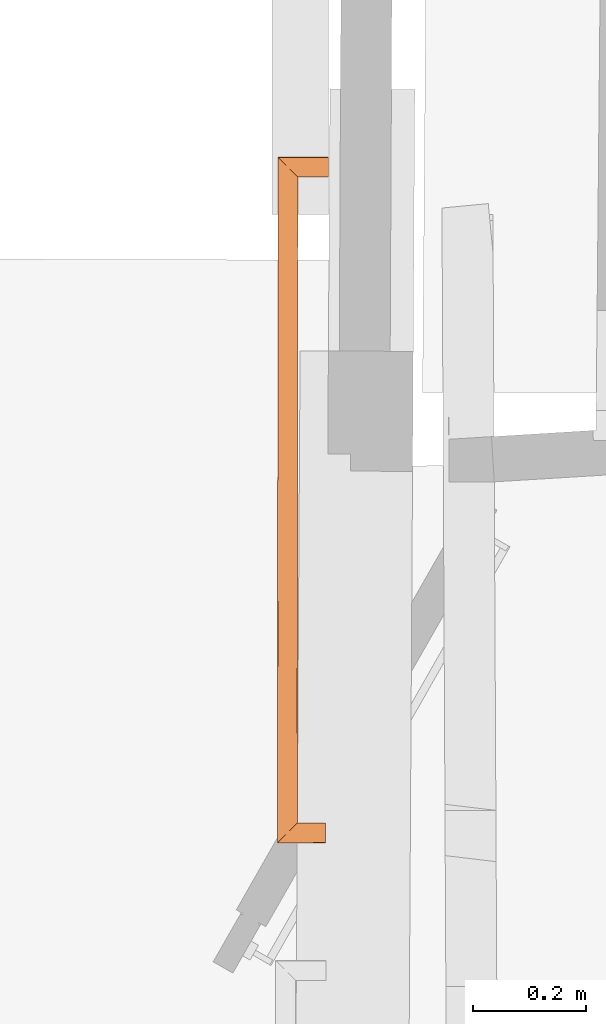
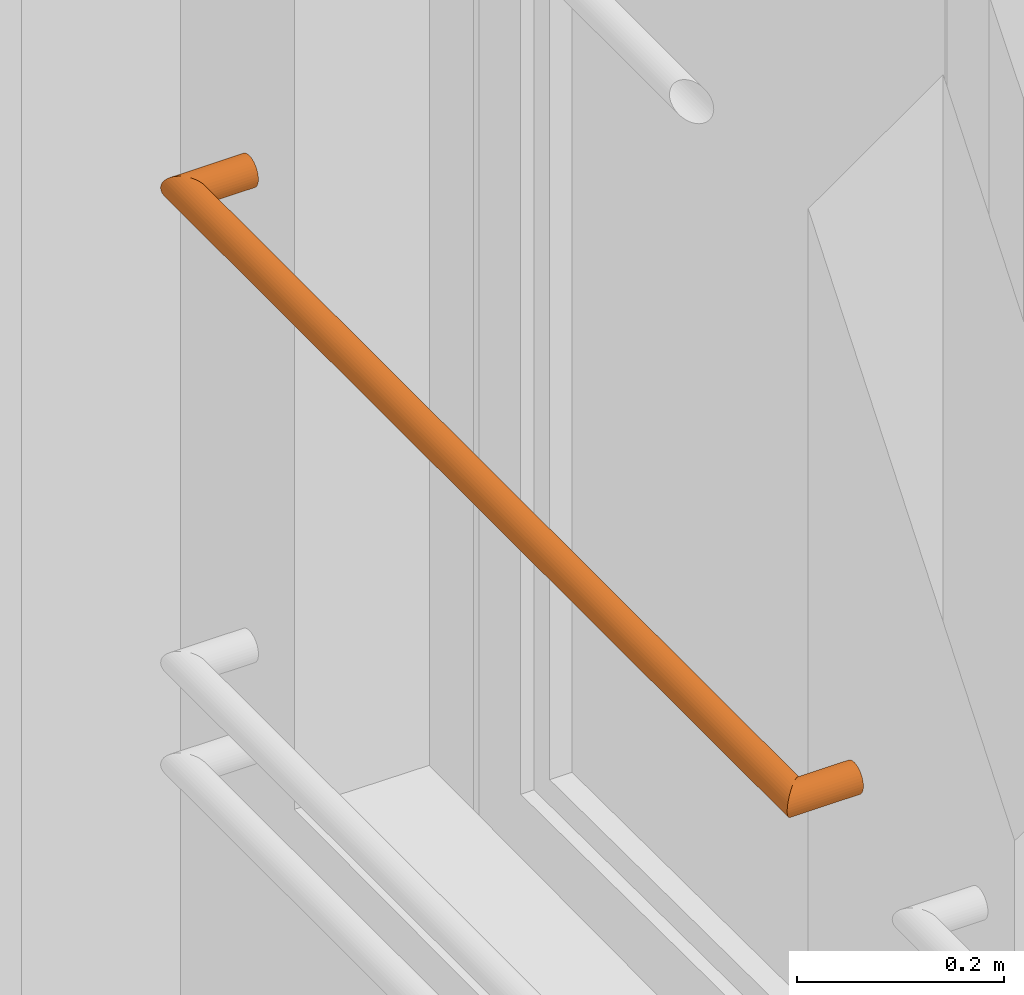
# One storey, part 90 of 97: 1 proxy.
"""IFC2X3 building model written with IfcOpenShell, lengths in centimetres."""

from ifc_helpers import new_model, entity, si_unit, converted_unit, direction, origin, origin_with_axes, place, context, subcontext, project, spatial, faceted_brep, material, type_object, element, save


model = new_model("IFC2X3")

# Units and contexts
model_context = context("Model", 3, precision=0.0001, world=origin(), true_north=direction((0.225632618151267, 0.974212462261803, 0.0)))
body_context = subcontext(model_context, "Body", "Model", "MODEL_VIEW")
ifc_project = project(units=[si_unit("LENGTHUNIT", "METRE", prefix="CENTI"), si_unit("AREAUNIT", "SQUARE_METRE", prefix="CENTI"), si_unit("VOLUMEUNIT", "CUBIC_METRE", prefix="CENTI"), converted_unit("PLANEANGLEUNIT", "DEGREE", entity("IfcRatioMeasure", 0.0174532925), si_unit("PLANEANGLEUNIT", "RADIAN"), dimensions=[0, 0, 0, 0, 0, 0, 0])], contexts=[model_context])

# Site, building, storey
site_placement = place(None, origin_with_axes())
site = spatial("IfcSite", under=ifc_project, at=site_placement, Name="Default Site", CompositionType="ELEMENT")
building_placement = place(site_placement, origin_with_axes())
building = spatial("IfcBuilding", under=site, at=building_placement, Name="Default Building", CompositionType="ELEMENT")
storey_placement = place(building_placement, origin_with_axes())
storey = spatial("IfcBuildingStorey", under=building, at=storey_placement, Name="Rez-de-chaussée", CompositionType="ELEMENT", Elevation=0.0)

# Proxy
ifc_material = material(Name="Aluminium mat")
building_element_proxy_type = type_object("IfcBuildingElementProxyType", Name="Profil [C] Ø35mm", PredefinedType="NOTDEFINED", material=ifc_material)
proxy_placement = place(storey_placement, origin_with_axes())
element("IfcBuildingElementProxy", 1, at=proxy_placement, inside=storey, type_object=building_element_proxy_type, material=ifc_material, Name="Extrusion (solide) 1702445", context=body_context, shape_type="Brep", body=[
    faceted_brep([(-1369.52066421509, -54.8992037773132, 368.00000667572), (-1369.49405670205, -54.8726384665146, 367.696118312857), (-1361.02056503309, -54.8794807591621, 367.696118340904), (-1361.02056503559, -54.9060675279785, 368.000006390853), (-1369.49405670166, -54.8726379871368, 367.696118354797), (-1369.414997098, -54.7937477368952, 367.40145777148), (-1361.02046966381, -54.8005261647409, 367.401457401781), (-1361.02056503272, -54.8794802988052, 367.696118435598), (-1369.41499710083, -54.7937512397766, 367.401456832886), (-1369.28596497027, -54.6649451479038, 367.125007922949), (-1361.02037430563, -54.671618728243, 367.125006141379), (-1361.02046966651, -54.8005295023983, 367.40145626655), (-1369.28596496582, -54.6649396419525, 367.125010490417), (-1369.11087035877, -54.4901100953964, 366.875126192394), (-1361.02027892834, -54.4966430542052, 366.875125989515), (-1361.02037430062, -54.6716125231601, 367.125008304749), (-1369.11087036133, -54.4901132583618, 366.875123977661), (-1368.89505386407, -54.274589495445, 366.659426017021), (-1361.02008819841, -54.2809459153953, 366.659423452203), (-1361.02027893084, -54.496646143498, 366.875123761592), (-1368.89505386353, -54.2745888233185, 366.659426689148), (-1368.64490508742, -54.0249073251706, 366.484456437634), (-1361.01989745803, -54.0310644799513, 366.48445644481), (-1361.02008819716, -54.2809443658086, 366.659424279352), (-1368.64490509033, -54.0249109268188, 366.484451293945), (-1368.36824417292, -53.7486694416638, 366.355533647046), (-1361.01961136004, -53.7546055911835, 366.355534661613), (-1361.01989746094, -54.0310680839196, 366.484451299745), (-1368.36824417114, -53.7486672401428, 366.355538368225), (-1368.07336807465, -53.4542587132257, 366.276588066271), (-1361.01942062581, -53.4599567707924, 366.276588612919), (-1361.0196113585, -53.7546036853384, 366.355539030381), (-1368.07336807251, -53.4542560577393, 366.276597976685), (-1367.76924133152, -53.1506162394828, 366.25001145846), (-1361.01913452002, -53.1560641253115, 366.250011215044), (-1361.01942062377, -53.4599542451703, 366.276598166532), (-1367.76924133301, -53.1506180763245, 366.249990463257), (-1367.46511459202, -52.846978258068, 366.276576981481), (-1361.01894378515, -52.8521817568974, 366.276577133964), (-1361.0191345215, -53.1560659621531, 366.249990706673), (-1367.46511459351, -52.8469800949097, 366.276597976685), (-1367.17023849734, -52.5525660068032, 366.355549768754), (-1361.01865768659, -52.5575367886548, 366.355548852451), (-1361.01894378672, -52.8521836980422, 366.276598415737), (-1367.17023849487, -52.5525629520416, 366.355538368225), (-1366.8935775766, -52.2763263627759, 366.484453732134), (-1361.01846695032, -52.281070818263, 366.484453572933), (-1361.0186576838, -52.5575333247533, 366.355536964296), (-1366.89357757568, -52.2763252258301, 366.484451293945), (-1366.64342879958, -52.0266437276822, 366.65942154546), (-1361.0182762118, -52.0311857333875, 366.659421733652), (-1361.01846694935, -52.2810696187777, 366.484451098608), (-1366.64342880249, -52.0266473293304, 366.659426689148), (-1366.42761230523, -51.8111235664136, 366.875124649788), (-1361.01808547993, -51.8154921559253, 366.875124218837), (-1361.01827621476, -52.0311894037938, 366.659426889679), (-1366.42761230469, -51.8111228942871, 366.875123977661), (-1366.25251769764, -51.636293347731, 367.125008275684), (-1361.01799011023, -51.6405199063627, 367.125008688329), (-1361.01808547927, -51.8154913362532, 366.875123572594), (-1366.2525177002, -51.6362965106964, 367.125010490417), (-1366.12348556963, -51.5074904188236, 367.401459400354), (-1361.01779938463, -51.5116124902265, 367.401460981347), (-1361.01799011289, -51.6405232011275, 367.12501082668), (-1366.12348556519, -51.5074849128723, 367.401456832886), (-1366.04442596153, -51.4285946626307, 367.696117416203), (-1361.01779937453, -51.4326536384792, 367.696117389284), (-1361.01779938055, -51.5116074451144, 367.401457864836), (-1366.04442596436, -51.4285981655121, 367.696118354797), (-1366.01781845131, -51.4020328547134, 368.00000671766), (-1361.01779937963, -51.4060703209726, 368.000006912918), (-1361.01779937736, -51.4326571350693, 367.696118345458), (-1366.01781845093, -51.4020323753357, 368.00000667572), (-1366.04442596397, -51.4285976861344, 368.303895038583), (-1361.01779937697, -51.4326566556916, 368.303895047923), (-1361.01779937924, -51.4060698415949, 368.000006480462), (-1366.04442596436, -51.4285981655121, 368.303894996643), (-1366.1234855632, -51.5074824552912, 368.598533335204), (-1361.01779937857, -51.5116049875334, 368.598532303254), (-1361.01779937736, -51.4326571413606, 368.303895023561), (-1366.12348556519, -51.5074849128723, 368.598532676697), (-1366.25251770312, -51.6363001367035, 368.875001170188), (-1361.01799011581, -51.6405268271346, 368.875000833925), (-1361.01779938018, -51.5116069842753, 368.598531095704), (-1366.2525177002, -51.6362965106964, 368.875002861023), (-1366.42761230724, -51.8111260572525, 369.124887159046), (-1361.01808548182, -51.8154944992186, 369.124887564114), (-1361.01799011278, -51.6405230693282, 368.875002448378), (-1366.42761230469, -51.8111228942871, 369.124889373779), (-1366.64342880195, -52.0266466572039, 369.340587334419), (-1361.01827621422, -52.0311887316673, 369.340587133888), (-1361.01808547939, -51.8154914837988, 369.12488980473), (-1366.64342880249, -52.0266473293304, 369.340586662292), (-1366.89357756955, -52.2763176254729, 369.515549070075), (-1361.01846694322, -52.2810620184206, 369.515549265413), (-1361.01827621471, -52.0311893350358, 369.3405864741), (-1366.89357757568, -52.2763252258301, 369.515538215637), (-1367.17023849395, -52.5525618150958, 369.644453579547), (-1361.01865768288, -52.5575321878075, 369.644454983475), (-1361.0184669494, -52.2810696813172, 369.515538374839), (-1367.17023849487, -52.5525629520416, 369.644451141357), (-1367.46511459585, -52.8469830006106, 369.723404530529), (-1361.01894378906, -52.8521866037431, 369.723404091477), (-1361.01865768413, -52.5575337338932, 369.644452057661), (-1367.46511459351, -52.8469800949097, 369.723415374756), (-1367.76924133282, -53.1506178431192, 369.750001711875), (-1361.01913452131, -53.1560657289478, 369.750001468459), (-1361.01894378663, -52.852183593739, 369.723415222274), (-1367.76924133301, -53.1506180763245, 369.749999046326), (-1368.07336807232, -53.454255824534, 369.723412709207), (-1361.01942062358, -53.459954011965, 369.723412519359), (-1361.0191345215, -53.1560659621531, 369.749999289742), (-1368.07336807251, -53.4542560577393, 369.723415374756), (-1368.36824417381, -53.7486705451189, 369.6444634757), (-1361.01961136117, -53.7546069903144, 369.644462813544), (-1361.01942062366, -53.459954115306, 369.723414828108), (-1368.36824417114, -53.7486672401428, 369.644451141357), (-1368.64490508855, -54.0249087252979, 369.515533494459), (-1361.01989745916, -54.0310658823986, 369.515533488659), (-1361.01961135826, -53.7546033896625, 369.644450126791), (-1368.64490509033, -54.0249109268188, 369.515538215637), (-1368.89505385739, -54.2745812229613, 369.340575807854), (-1361.02008819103, -54.2809367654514, 369.340578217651), (-1361.01989746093, -54.0310680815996, 369.515538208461), (-1368.89505386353, -54.2745888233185, 369.340586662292), (-1369.11087036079, -54.4901125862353, 369.124888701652), (-1361.0202789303, -54.4966454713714, 369.124888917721), (-1361.02008819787, -54.2809452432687, 369.340589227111), (-1369.11087036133, -54.4901132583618, 369.124889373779), (-1369.28596496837, -54.664942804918, 368.875005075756), (-1361.02037430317, -54.6716156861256, 368.875007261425), (-1361.0202789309, -54.4966462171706, 369.124889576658), (-1369.28596496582, -54.6649396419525, 368.875002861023), (-1369.41499710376, -54.7937548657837, 368.598534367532), (-1361.02046966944, -54.8005331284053, 368.598534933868), (-1361.02037430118, -54.6716132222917, 368.875004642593), (-1369.41499710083, -54.7937512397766, 368.598532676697), (-1369.49405669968, -54.8726355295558, 368.303894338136), (-1361.02056503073, -54.8794778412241, 368.303894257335), (-1361.02046966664, -54.8005296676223, 368.598533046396), (-1369.49405670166, -54.8726379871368, 368.303894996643), (-1369.5206642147, -54.8992032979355, 368.00000663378), (-1361.0205650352, -54.9060670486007, 368.000006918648), (-1361.0205650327, -54.8794802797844, 368.303894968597), (-1369.42281723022, 66.2952899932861, 368.00000667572), (-1369.39625158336, 66.2687063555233, 367.696114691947), (-1369.49407264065, -54.8726379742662, 367.696116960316), (-1369.52068087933, -54.899203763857, 368.000005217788), (-1369.3962097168, 66.2687063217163, 367.696118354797), (-1369.31732058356, 66.1897539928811, 367.401462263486), (-1369.41501149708, -54.7937512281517, 367.40145297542), (-1369.4940323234, -54.8726380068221, 367.696124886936), (-1369.31734085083, 66.1897540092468, 367.401456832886), (-1369.18852936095, 66.0608351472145, 367.124996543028), (-1369.28601111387, -54.6649396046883, 367.124988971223), (-1369.41502761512, -54.7937512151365, 367.401442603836), (-1369.18849945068, 66.0608351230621, 367.125010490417), (-1369.01367571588, 65.8858716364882, 366.875134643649), (-1369.11087084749, -54.4901132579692, 366.875123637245), (-1369.28597823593, -54.664939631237, 367.125001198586), (-1369.01369094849, 65.8858716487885, 366.875123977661), (-1368.79816415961, 65.6701684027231, 366.659423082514), (-1368.8950381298, -54.2745888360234, 366.659442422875), (-1369.11088207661, -54.4901132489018, 366.875112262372), (-1368.79816055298, 65.6701683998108, 366.659426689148), (-1368.54848298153, 65.4202938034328, 366.484459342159), (-1368.64491089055, -54.0249109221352, 366.484443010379), (-1368.89504113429, -54.2745888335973, 366.659444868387), (-1368.54848861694, 65.4202938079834, 366.484451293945), (-1368.27221772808, 65.1438295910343, 366.355520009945), (-1368.36824735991, -53.7486672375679, 366.355531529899), (-1368.64491129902, -54.0249109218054, 366.484437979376), (-1368.27220916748, 65.1438295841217, 366.355538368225), (-1367.97781175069, 64.8491799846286, 366.276591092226), (-1368.07336798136, -53.4542560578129, 366.276598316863), (-1368.36824215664, -53.7486672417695, 366.355545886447), (-1367.97780990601, 64.849179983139, 366.276597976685), (-1367.67415825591, 64.5452916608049, 366.250010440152), (-1367.7692392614, -53.1506180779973, 366.250014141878), (-1368.07336785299, -53.4542560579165, 366.276600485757), (-1367.67416000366, 64.5452916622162, 366.249990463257), (-1367.37060299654, 64.2414092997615, 366.276569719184), (-1367.46511241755, -52.8469800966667, 366.276573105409), (-1367.76924100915, -53.150618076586, 366.249986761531), (-1367.37060546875, 64.2414093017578, 366.276597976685), (-1367.07611907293, 63.9467597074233, 366.355569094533), (-1367.17024303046, -52.5525629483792, 366.355555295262), (-1367.46511720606, -52.8469800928, 366.276607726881), (-1367.07611083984, 63.9467597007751, 366.355538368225), (-1366.79991828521, 63.6702954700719, 366.484433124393), (-1366.89356469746, -52.2763252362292, 366.484423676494), (-1367.17022863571, -52.5525629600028, 366.355517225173), (-1366.79992675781, 63.6702954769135, 366.484451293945), (-1366.55024918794, 63.4204149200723, 366.659418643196), (-1366.64343921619, -52.0266473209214, 366.659441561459), (-1366.89356945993, -52.2763252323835, 366.484439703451), (-1366.55025482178, 63.4204149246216, 366.659426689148), (-1366.3347280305, 63.2047176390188, 366.875127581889), (-1366.42760925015, -51.8111228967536, 366.875120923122), (-1366.64345319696, -52.0266473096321, 366.659451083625), (-1366.33472442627, 63.2047176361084, 366.875123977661), (-1366.1599006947, 63.0297481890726, 367.124999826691), (-1366.25249597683, -51.6362965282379, 367.124995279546), (-1366.42760336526, -51.8111229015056, 366.875117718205), (-1366.15991592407, 63.0297482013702, 367.125010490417), (-1366.03110443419, 62.9008293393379, 367.401470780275), (-1366.12349324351, -51.5074849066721, 367.401460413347), (-1366.25250974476, -51.6362965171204, 367.125006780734), (-1366.03107452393, 62.9008293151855, 367.401456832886), (-1365.95218539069, 62.8218769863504, 367.696112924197), (-1366.04443948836, -51.4285981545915, 367.696121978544), (-1366.12346031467, -51.5074849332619, 367.401450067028), (-1365.95220565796, 62.8218770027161, 367.696118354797), (-1365.92564001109, 62.7952933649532, 368.000010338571), (-1366.01785367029, -51.4020323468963, 368.000009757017), (-1366.04446190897, -51.428598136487, 367.696121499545), (-1365.92559814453, 62.7952933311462, 368.00000667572), (-1365.9521637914, 62.8218769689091, 368.303898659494), (-1366.04442004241, -51.428598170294, 368.303895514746), (-1366.01781180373, -51.4020323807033, 368.000007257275), (-1365.95220565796, 62.8218770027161, 368.303894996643), (-1366.03108883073, 62.9008293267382, 368.598528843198), (-1366.12347462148, -51.5074849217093, 368.598535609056), (-1366.04445975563, -51.4285981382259, 368.303885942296), (-1366.03107452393, 62.9008293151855, 368.598532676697), (-1366.15989514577, 63.0297481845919, 368.875012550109), (-1366.25248896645, -51.6362965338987, 368.875016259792), (-1366.12346333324, -51.5074849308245, 368.598543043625), (-1366.15991592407, 63.0297482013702, 368.875002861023), (-1366.33473965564, 63.204717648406, 369.124878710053), (-1366.42761859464, -51.811122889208, 369.124884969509), (-1366.2525112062, -51.6362965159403, 368.875007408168), (-1366.33472442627, 63.2047176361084, 369.124889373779), (-1366.55025121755, 63.4204149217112, 369.34059026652), (-1366.64344959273, -52.0266473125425, 369.340565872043), (-1366.42760564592, -51.811122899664, 369.124896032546), (-1366.55025482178, 63.4204149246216, 369.340586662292), (-1366.79992118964, 63.6702954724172, 369.515546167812), (-1366.89356389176, -52.2763252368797, 369.515557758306), (-1366.64344485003, -52.0266473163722, 369.34056374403), (-1366.79992675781, 63.6702954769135, 369.515538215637), (-1367.07611931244, 63.9467597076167, 369.644432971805), (-1367.17023710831, -52.5525629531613, 369.644454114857), (-1366.89357317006, -52.2763252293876, 369.515547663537), (-1367.07611083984, 63.9467597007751, 369.644451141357), (-1367.37060319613, 64.2414092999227, 369.723423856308), (-1367.46511493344, -52.8469800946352, 369.723414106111), (-1367.17023479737, -52.5525629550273, 369.644464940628), (-1367.37060546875, 64.2414093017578, 369.723415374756), (-1367.67416040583, 64.5452916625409, 369.749994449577), (-1367.76924141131, -53.1506180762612, 369.749998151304), (-1367.46511488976, -52.8469800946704, 369.723411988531), (-1367.67416000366, 64.5452916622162, 369.749999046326), (-1367.97780958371, 64.8491799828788, 369.723411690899), (-1368.0733675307, -53.4542560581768, 369.723409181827), (-1367.76924100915, -53.150618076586, 369.749995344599), (-1367.97780990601, 64.849179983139, 369.723415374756), (-1368.27221328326, 65.1438295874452, 369.644466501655), (-1368.36824627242, -53.7486672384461, 369.644458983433), (-1368.07336613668, -53.4542560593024, 369.723408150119), (-1368.27220916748, 65.1438295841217, 369.644451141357), (-1368.54848005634, 65.4202938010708, 369.515519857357), (-1368.64490273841, -54.024910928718, 369.515533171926), (-1368.3682387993, -53.7486672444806, 369.644439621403), (-1368.54848861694, 65.4202938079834, 369.515538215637), (-1368.79815498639, 65.6701683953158, 369.340578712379), (-1368.8950355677, -54.2745888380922, 369.34056053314), (-1368.64491652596, -54.0249109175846, 369.515554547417), (-1368.79816055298, 65.6701683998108, 369.340586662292), (-1369.01368734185, 65.8858716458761, 369.124885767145), (-1369.11087846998, -54.4901132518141, 369.124897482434), (-1368.89503452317, -54.2745888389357, 369.340567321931), (-1369.01369094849, 65.8858716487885, 369.124889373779), (-1369.18851468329, 66.0608351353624, 368.875013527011), (-1369.28599346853, -54.6649396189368, 368.875022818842), (-1369.1108860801, -54.490113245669, 369.124900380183), (-1369.18849945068, 66.0608351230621, 368.875002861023), (-1369.31732007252, 66.1897539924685, 368.598522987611), (-1369.41500683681, -54.7937512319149, 368.598537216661), (-1369.2859812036, -54.6649396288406, 368.875010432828), (-1369.31734085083, 66.1897540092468, 368.598532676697), (-1369.3962240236, 66.268706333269, 368.303898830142), (-1369.4940466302, -54.8726379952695, 368.303892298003), (-1369.41503176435, -54.793751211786, 368.598541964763), (-1369.3962097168, 66.2687063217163, 368.303894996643), (-1369.42277536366, 66.2952899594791, 368.000003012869), (-1369.52063901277, -54.8992037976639, 368.000004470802), (-1369.49403077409, -54.8726380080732, 368.303892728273), (-1360.53285598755, 66.2952899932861, 368.00000667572), (-1360.53285598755, 66.2687032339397, 367.696118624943), (-1369.3962097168, 66.2687032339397, 367.696118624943), (-1360.53285598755, 66.2687063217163, 367.696118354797), (-1360.53285598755, 66.1897521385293, 367.401457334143), (-1369.31734085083, 66.1897521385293, 367.401457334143), (-1360.53285598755, 66.1897540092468, 367.401456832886), (-1360.53285598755, 66.0608432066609, 367.125006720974), (-1369.18849945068, 66.0608432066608, 367.125006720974), (-1360.53285598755, 66.0608351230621, 367.125010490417), (-1360.53285598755, 65.885865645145, 366.875128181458), (-1369.01369094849, 65.8858656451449, 366.875128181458), (-1369.18849945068, 66.0608351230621, 367.125010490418), (-1360.53285598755, 65.8858716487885, 366.875123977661), (-1360.53285598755, 65.670171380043, 366.659423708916), (-1368.79816055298, 65.670171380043, 366.659423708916), (-1369.01369094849, 65.8858716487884, 366.875123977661), (-1360.53285598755, 65.6701683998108, 366.659426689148), (-1360.53285598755, 65.4202884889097, 366.48445889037), (-1368.54848861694, 65.4202884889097, 366.48445889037), (-1360.53285598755, 65.4202938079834, 366.484451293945), (-1360.53285598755, 65.1438312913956, 366.355534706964), (-1368.27220916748, 65.1438312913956, 366.355534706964), (-1360.53285598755, 65.1438295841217, 366.355538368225), (-1360.53285598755, 64.8491826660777, 366.276587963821), (-1367.97780990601, 64.8491826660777, 366.276587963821), (-1360.53285598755, 64.849179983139, 366.276597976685), (-1360.53285598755, 64.545289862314, 366.250011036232), (-1367.67416000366, 64.545289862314, 366.250011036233), (-1360.53285598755, 64.5452916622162, 366.249990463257), (-1360.53285598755, 64.2414074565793, 366.276576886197), (-1367.37060546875, 64.2414074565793, 366.276576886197), (-1360.53285598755, 64.2414093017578, 366.276597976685), (-1360.53285598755, 63.9467623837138, 366.355548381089), (-1367.07611083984, 63.9467623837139, 366.355548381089), (-1360.53285598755, 63.9467597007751, 366.355538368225), (-1360.53285598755, 63.6702971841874, 366.484454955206), (-1366.79992675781, 63.6702971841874, 366.484454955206), (-1367.07611083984, 63.9467597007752, 366.355538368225), (-1360.53285598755, 63.6702954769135, 366.484451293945), (-1360.53285598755, 63.4204115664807, 366.659421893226), (-1366.55025482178, 63.4204115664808, 366.659421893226), (-1366.79992675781, 63.6702954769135, 366.484451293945), (-1360.53285598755, 63.4204149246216, 366.659426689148), (-1360.53285598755, 63.2047176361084, 366.875123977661), (-1360.53285598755, 63.0297461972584, 367.125009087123), (-1366.15991592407, 63.0297461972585, 367.125009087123), (-1360.53285598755, 63.0297482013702, 367.125010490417), (-1360.53285598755, 62.9008373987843, 367.40146060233), (-1366.03107452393, 62.9008373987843, 367.40146060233), (-1366.15991592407, 63.0297482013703, 367.125010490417), (-1360.53285598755, 62.9008293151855, 367.401456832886), (-1360.53285598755, 62.8218751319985, 367.69611785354), (-1365.95220565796, 62.8218751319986, 367.69611785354), (-1366.03107452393, 62.9008293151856, 367.401456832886), (-1360.53285598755, 62.8218770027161, 367.696118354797), (-1360.53285598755, 62.7952902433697, 368.000006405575), (-1365.92559814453, 62.7952902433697, 368.000006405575), (-1360.53285598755, 62.7952933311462, 368.00000667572), (-1360.53285598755, 62.8218800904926, 368.303894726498), (-1365.95220565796, 62.8218800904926, 368.303894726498), (-1360.53285598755, 62.8218770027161, 368.303894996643), (-1360.53285598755, 62.9008252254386, 368.598533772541), (-1366.03107452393, 62.9008252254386, 368.598533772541), (-1365.95220565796, 62.8218770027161, 368.303894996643), (-1360.53285598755, 62.9008293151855, 368.598532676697), (-1360.53285598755, 63.0297492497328, 368.875002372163), (-1366.15991592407, 63.0297492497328, 368.875002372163), (-1360.53285598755, 63.0297482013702, 368.875002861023), (-1360.53285598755, 63.2047196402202, 369.124887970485), (-1366.33472442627, 63.2047196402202, 369.124887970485), (-1360.53285598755, 63.2047176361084, 369.124889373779), (-1360.53285598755, 63.4204149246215, 369.340586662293), (-1366.55025482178, 63.4204149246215, 369.340586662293), (-1360.53285598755, 63.4204149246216, 369.340586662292), (-1360.53285598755, 63.6702876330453, 369.515549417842), (-1366.79992675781, 63.6702876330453, 369.515549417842), (-1366.55025482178, 63.4204149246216, 369.340586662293), (-1360.53285598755, 63.6702954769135, 369.515538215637), (-1360.53285598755, 63.9467579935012, 369.644454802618), (-1367.07611083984, 63.9467579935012, 369.644454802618), (-1360.53285598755, 63.9467597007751, 369.644451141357), (-1360.53285598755, 64.2414125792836, 369.723403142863), (-1367.37060546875, 64.2414125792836, 369.723403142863), (-1367.07611083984, 63.9467597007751, 369.644451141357), (-1360.53285598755, 64.2414093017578, 369.723415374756), (-1360.53285598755, 64.5452914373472, 369.75000161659), (-1367.67416000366, 64.5452914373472, 369.75000161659), (-1360.53285598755, 64.5452916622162, 369.749999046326), (-1360.53285598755, 64.8491797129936, 369.723412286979), (-1367.97780990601, 64.8491797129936, 369.723412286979), (-1360.53285598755, 64.849179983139, 369.723415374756), (-1360.53285598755, 65.1438328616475, 369.64446337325), (-1368.27220916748, 65.1438328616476, 369.64446337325), (-1360.53285598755, 65.1438295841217, 369.644451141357), (-1360.53285598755, 65.4202921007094, 369.515534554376), (-1368.54848861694, 65.4202921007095, 369.515534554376), (-1368.27220916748, 65.1438295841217, 369.644451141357), (-1360.53285598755, 65.4202938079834, 369.515538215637), (-1360.53285598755, 65.6701625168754, 369.34057826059), (-1368.79816055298, 65.6701625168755, 369.34057826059), (-1360.53285598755, 65.6701683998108, 369.340586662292), (-1360.53285598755, 65.8858686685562, 369.124886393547), (-1369.01369094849, 65.8858686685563, 369.124886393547), (-1368.79816055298, 65.6701683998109, 369.340586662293), (-1360.53285598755, 65.8858716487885, 369.124889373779), (-1360.53285598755, 66.0608411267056, 368.875007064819), (-1369.18849945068, 66.0608411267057, 368.875007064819), (-1360.53285598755, 66.0608351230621, 368.875002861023), (-1360.53285598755, 66.1897550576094, 368.598533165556), (-1369.31734085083, 66.1897550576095, 368.598533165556), (-1369.18849945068, 66.0608351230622, 368.875002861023), (-1360.53285598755, 66.1897540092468, 368.598532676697), (-1360.53285598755, 66.2687022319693, 368.303893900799), (-1369.3962097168, 66.2687022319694, 368.303893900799), (-1369.31734085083, 66.1897540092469, 368.598532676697), (-1360.53285598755, 66.2687063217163, 368.303894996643), (-1360.53285598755, 66.2952930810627, 368.000006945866), (-1369.42281723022, 66.2952930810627, 368.000006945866), (-1361.02056503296, -54.9060642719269, 368.00000667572), (-1361.02054356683, -54.8794806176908, 367.696118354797), (-1361.02047981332, -54.8005282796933, 367.401456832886), (-1361.02037571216, -54.671609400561, 367.125010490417), (-1361.02023443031, -54.496645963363, 366.875123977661), (-1361.02006025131, -54.2809427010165, 366.659426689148), (-1361.01985847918, -54.0310681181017, 366.484451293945), (-1361.01963523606, -53.7546038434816, 366.355538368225), (-1361.01939730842, -53.4599542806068, 366.276597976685), (-1361.01915192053, -53.1560659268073, 366.249990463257), (-1361.01890653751, -52.852183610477, 366.276597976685), (-1361.01866860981, -52.5575339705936, 366.355538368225), (-1361.01844536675, -52.2810697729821, 366.484451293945), (-1361.01824358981, -52.0311892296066, 366.659426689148), (-1361.01806941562, -51.8154919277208, 366.875123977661), (-1361.01792812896, -51.6405225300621, 367.125010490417), (-1361.01782402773, -51.5116035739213, 367.401456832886), (-1361.0177602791, -51.432657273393, 367.696118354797), (-1361.01773880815, -51.4060676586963, 368.00000667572), (-1361.01776027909, -51.432657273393, 368.303894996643), (-1361.01782402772, -51.5116035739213, 368.598532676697), (-1361.01792812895, -51.6405225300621, 368.875002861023), (-1361.01806941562, -51.8154919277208, 369.124889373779), (-1361.0182435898, -52.0311892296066, 369.340586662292), (-1361.01844536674, -52.2810697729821, 369.515538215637), (-1361.0186686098, -52.5575339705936, 369.644451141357), (-1361.0189065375, -52.852183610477, 369.723415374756), (-1361.01915192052, -53.1560659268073, 369.749999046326), (-1361.01939730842, -53.4599542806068, 369.723415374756), (-1361.01963523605, -53.7546038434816, 369.644451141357), (-1361.01985847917, -54.0310681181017, 369.515538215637), (-1361.0200602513, -54.2809427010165, 369.340586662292), (-1361.0202344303, -54.496645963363, 369.124889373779), (-1361.02037571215, -54.671609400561, 368.875002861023), (-1361.02047981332, -54.8005282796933, 368.598532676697), (-1361.02054356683, -54.8794806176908, 368.303894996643)], [[[0, 1, 2, 3]], [[4, 5, 6, 7]], [[8, 9, 10, 11]], [[12, 13, 14, 15]], [[16, 17, 18, 19]], [[20, 21, 22, 23]], [[24, 25, 26, 27]], [[28, 29, 30, 31]], [[32, 33, 34, 35]], [[36, 37, 38, 39]], [[40, 41, 42, 43]], [[44, 45, 46, 47]], [[48, 49, 50, 51]], [[52, 53, 54, 55]], [[56, 57, 58, 59]], [[60, 61, 62, 63]], [[64, 65, 66, 67]], [[68, 69, 70, 71]], [[72, 73, 74, 75]], [[76, 77, 78, 79]], [[80, 81, 82, 83]], [[84, 85, 86, 87]], [[88, 89, 90, 91]], [[92, 93, 94, 95]], [[96, 97, 98, 99]], [[100, 101, 102, 103]], [[104, 105, 106, 107]], [[108, 109, 110, 111]], [[112, 113, 114, 115]], [[116, 117, 118, 119]], [[120, 121, 122, 123]], [[124, 125, 126, 127]], [[128, 129, 130, 131]], [[132, 133, 134, 135]], [[136, 137, 138, 139]], [[140, 141, 142, 143]], [[144, 145, 146, 147]], [[148, 149, 150, 151]], [[152, 153, 154, 155]], [[156, 157, 158, 159]], [[160, 161, 162, 163]], [[164, 165, 166, 167]], [[168, 169, 170, 171]], [[172, 173, 174, 175]], [[176, 177, 178, 179]], [[180, 181, 182, 183]], [[184, 185, 186, 187]], [[188, 189, 190, 191]], [[192, 193, 194, 195]], [[196, 197, 198, 199]], [[200, 201, 202, 203]], [[204, 205, 206, 207]], [[208, 209, 210, 211]], [[212, 213, 214, 215]], [[216, 217, 218, 219]], [[220, 221, 222, 223]], [[224, 225, 226, 227]], [[228, 229, 230, 231]], [[232, 233, 234, 235]], [[236, 237, 238, 239]], [[240, 241, 242, 243]], [[244, 245, 246, 247]], [[248, 249, 250, 251]], [[252, 253, 254, 255]], [[256, 257, 258, 259]], [[260, 261, 262, 263]], [[264, 265, 266, 267]], [[268, 269, 270, 271]], [[272, 273, 274, 275]], [[276, 277, 278, 279]], [[280, 281, 282, 283]], [[284, 285, 286, 287]], [[288, 289, 290, 144]], [[291, 292, 293, 148]], [[294, 295, 296, 152]], [[297, 298, 299, 300]], [[301, 302, 303, 304]], [[305, 306, 307, 164]], [[308, 309, 310, 168]], [[311, 312, 313, 172]], [[314, 315, 316, 176]], [[317, 318, 319, 180]], [[320, 321, 322, 184]], [[323, 324, 325, 326]], [[327, 328, 329, 330]], [[331, 332, 200, 196]], [[332, 333, 334, 200]], [[335, 336, 337, 338]], [[339, 340, 341, 342]], [[343, 344, 345, 212]], [[346, 347, 348, 216]], [[349, 350, 351, 352]], [[353, 354, 355, 224]], [[356, 357, 358, 228]], [[359, 360, 361, 232]], [[362, 363, 364, 365]], [[366, 367, 368, 240]], [[369, 370, 371, 372]], [[373, 374, 375, 248]], [[376, 377, 378, 252]], [[379, 380, 381, 256]], [[382, 383, 384, 385]], [[386, 387, 388, 264]], [[389, 390, 391, 392]], [[393, 394, 395, 272]], [[396, 397, 398, 399]], [[400, 401, 402, 403]], [[404, 405, 406, 284]], [[407, 408, 409, 410, 411, 412, 413, 414, 415, 416, 417, 418, 419, 420, 421, 422, 423, 424, 425, 426, 427, 428, 429, 430, 431, 432, 433, 434, 435, 436, 437, 438, 439, 440, 441, 442]], [[404, 400, 396, 393, 389, 386, 382, 379, 376, 373, 369, 366, 362, 359, 356, 353, 349, 346, 343, 339, 335, 332, 331, 327, 323, 320, 317, 314, 311, 308, 305, 301, 297, 294, 291, 288]]]),
])

save(model, "model.ifc")
